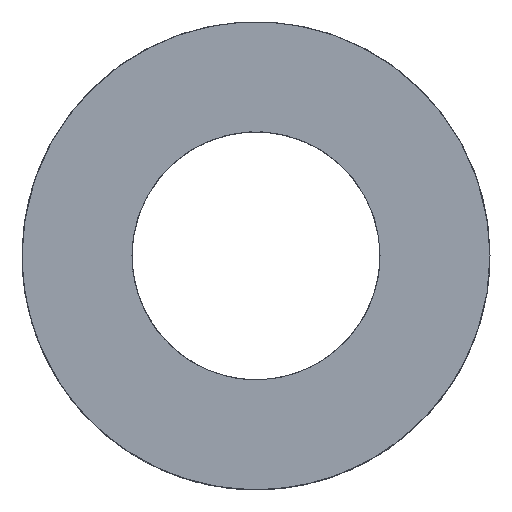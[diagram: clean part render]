
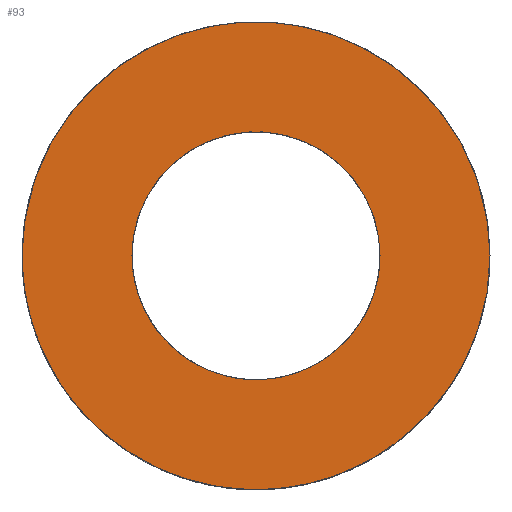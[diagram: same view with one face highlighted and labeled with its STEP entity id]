
A CAD part, top view. The second image highlights one B-rep face of the part: STEP entity #93.
In plain terms, the highlighted planar face has unit normal (0, 0, 1) as drawn and (1, 0, 0) by its records, which use the part's own axes.
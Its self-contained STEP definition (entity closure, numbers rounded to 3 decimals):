
#19=FACE_BOUND('',#106,.T.);
#21=PLANE('',#317);
#93=ADVANCED_FACE('',(#99,#19),#21,.T.);
#99=FACE_OUTER_BOUND('',#105,.T.);
#105=EDGE_LOOP('',(#119));
#106=EDGE_LOOP('',(#120));
#119=ORIENTED_EDGE('',*,*,#215,.T.);
#120=ORIENTED_EDGE('',*,*,#216,.T.);
#135=(
BOUNDED_CURVE()
B_SPLINE_CURVE(2,(#427,#428,#429,#430,#431,#432,#433,#434,#435),
 .UNSPECIFIED.,.T.,.F.)
B_SPLINE_CURVE_WITH_KNOTS((3,2,2,2,3),(3.142,4.712,
6.283,7.854,9.425),.UNSPECIFIED.)
CURVE()
GEOMETRIC_REPRESENTATION_ITEM()
RATIONAL_B_SPLINE_CURVE((1.,0.707,1.,0.707,1.,0.707,
1.,0.707,1.))
REPRESENTATION_ITEM('')
);
#136=(
BOUNDED_CURVE()
B_SPLINE_CURVE(2,(#436,#437,#438,#439,#440,#441,#442,#443,#444),
 .UNSPECIFIED.,.T.,.F.)
B_SPLINE_CURVE_WITH_KNOTS((3,2,2,2,3),(3.142,4.712,
6.283,7.854,9.425),.UNSPECIFIED.)
CURVE()
GEOMETRIC_REPRESENTATION_ITEM()
RATIONAL_B_SPLINE_CURVE((1.,0.707,1.,0.707,1.,0.707,
1.,0.707,1.))
REPRESENTATION_ITEM('')
);
#137=(
BOUNDED_CURVE()
B_SPLINE_CURVE(2,(#445,#446,#447,#448,#449,#450,#451,#452,#453),
 .UNSPECIFIED.,.T.,.F.)
B_SPLINE_CURVE_WITH_KNOTS((3,2,2,2,3),(0.,1.571,3.142,
4.712,6.283),.UNSPECIFIED.)
CURVE()
GEOMETRIC_REPRESENTATION_ITEM()
RATIONAL_B_SPLINE_CURVE((1.,0.707,1.,0.707,1.,0.707,
1.,0.707,1.))
REPRESENTATION_ITEM('')
);
#138=(
BOUNDED_CURVE()
B_SPLINE_CURVE(2,(#454,#455,#456,#457,#458,#459,#460,#461,#462),
 .UNSPECIFIED.,.T.,.F.)
B_SPLINE_CURVE_WITH_KNOTS((3,2,2,2,3),(0.,1.571,3.142,
4.712,6.283),.UNSPECIFIED.)
CURVE()
GEOMETRIC_REPRESENTATION_ITEM()
RATIONAL_B_SPLINE_CURVE((1.,0.707,1.,0.707,1.,0.707,
1.,0.707,1.))
REPRESENTATION_ITEM('')
);
#155=PCURVE('',#21,#175);
#156=PCURVE('',#21,#176);
#175=DEFINITIONAL_REPRESENTATION('',(#136),#593);
#176=DEFINITIONAL_REPRESENTATION('',(#138),#593);
#195=SURFACE_CURVE('',#135,(#155),.PCURVE_S1.);
#196=SURFACE_CURVE('',#137,(#156),.PCURVE_S1.);
#215=EDGE_CURVE('',#259,#259,#195,.T.);
#216=EDGE_CURVE('',#260,#260,#196,.T.);
#259=VERTEX_POINT('',#425);
#260=VERTEX_POINT('',#426);
#317=AXIS2_PLACEMENT_3D('',#424,#326,$);
#326=DIRECTION('',(1.,0.,0.));
#424=CARTESIAN_POINT('',(0.,5.,5.));
#425=CARTESIAN_POINT('',(0.,-5.,0.));
#426=CARTESIAN_POINT('',(0.,2.65,0.));
#427=CARTESIAN_POINT('',(0.,-5.,0.));
#428=CARTESIAN_POINT('',(0.,-5.,-5.));
#429=CARTESIAN_POINT('',(0.,0.,-5.));
#430=CARTESIAN_POINT('',(0.,5.,-5.));
#431=CARTESIAN_POINT('',(0.,5.,0.));
#432=CARTESIAN_POINT('',(0.,5.,5.));
#433=CARTESIAN_POINT('',(0.,0.,5.));
#434=CARTESIAN_POINT('',(0.,-5.,5.));
#435=CARTESIAN_POINT('',(0.,-5.,0.));
#436=CARTESIAN_POINT('',(1.,0.5));
#437=CARTESIAN_POINT('',(1.,1.));
#438=CARTESIAN_POINT('',(0.5,1.));
#439=CARTESIAN_POINT('',(0.,1.));
#440=CARTESIAN_POINT('',(0.,0.5));
#441=CARTESIAN_POINT('',(0.,0.));
#442=CARTESIAN_POINT('',(0.5,0.));
#443=CARTESIAN_POINT('',(1.,0.));
#444=CARTESIAN_POINT('',(1.,0.5));
#445=CARTESIAN_POINT('',(0.,2.65,0.));
#446=CARTESIAN_POINT('',(0.,2.65,-2.65));
#447=CARTESIAN_POINT('',(0.,0.,-2.65));
#448=CARTESIAN_POINT('',(0.,-2.65,-2.65));
#449=CARTESIAN_POINT('',(0.,-2.65,0.));
#450=CARTESIAN_POINT('',(0.,-2.65,2.65));
#451=CARTESIAN_POINT('',(0.,0.,2.65));
#452=CARTESIAN_POINT('',(0.,2.65,2.65));
#453=CARTESIAN_POINT('',(0.,2.65,0.));
#454=CARTESIAN_POINT('',(0.235,0.5));
#455=CARTESIAN_POINT('',(0.235,0.765));
#456=CARTESIAN_POINT('',(0.5,0.765));
#457=CARTESIAN_POINT('',(0.765,0.765));
#458=CARTESIAN_POINT('',(0.765,0.5));
#459=CARTESIAN_POINT('',(0.765,0.235));
#460=CARTESIAN_POINT('',(0.5,0.235));
#461=CARTESIAN_POINT('',(0.235,0.235));
#462=CARTESIAN_POINT('',(0.235,0.5));
#593=(
GEOMETRIC_REPRESENTATION_CONTEXT(2)
PARAMETRIC_REPRESENTATION_CONTEXT()
REPRESENTATION_CONTEXT('pspace','')
);
